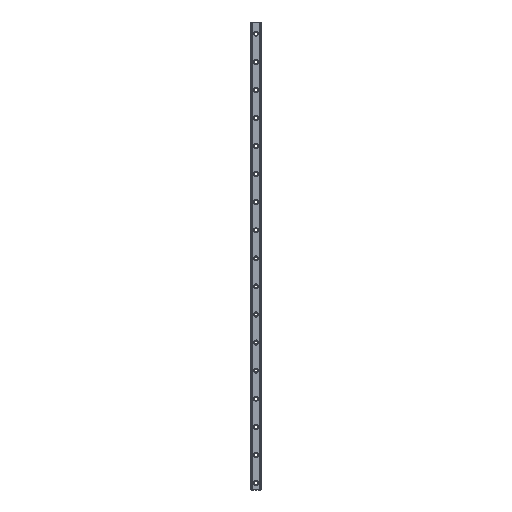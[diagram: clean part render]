
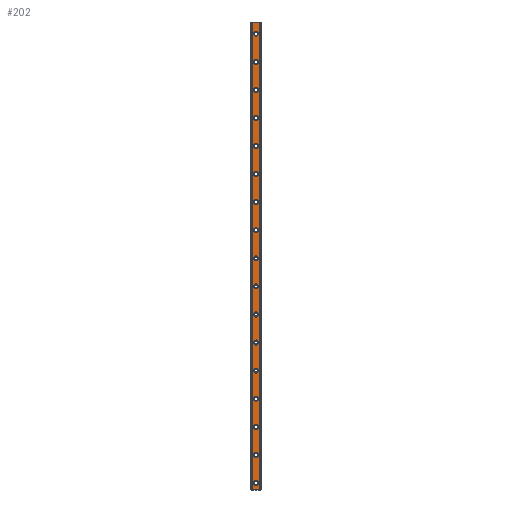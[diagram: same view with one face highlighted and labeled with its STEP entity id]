
A CAD part, top view. The second image highlights one B-rep face of the part: STEP entity #202.
In plain terms, the highlighted planar face has unit normal (0, 0, 1).
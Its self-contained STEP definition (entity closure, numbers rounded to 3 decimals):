
#202=ADVANCED_FACE('',(#1552,#1554,#1556,#1558,#1560,#1562,#1564,#1566,#1568,#1570,
#1572,#1574,#1576,#1578,#1580,#1582,#1584,#1586),#1588,.T.);
#1552=FACE_BOUND('',#1553,.T.);
#1553=EDGE_LOOP('',(#2754,#2755,#2756,#2757));
#1554=FACE_BOUND('',#1555,.T.);
#1555=EDGE_LOOP('',(#2758));
#1556=FACE_BOUND('',#1557,.T.);
#1557=EDGE_LOOP('',(#2759));
#1558=FACE_BOUND('',#1559,.T.);
#1559=EDGE_LOOP('',(#2760));
#1560=FACE_BOUND('',#1561,.T.);
#1561=EDGE_LOOP('',(#2761));
#1562=FACE_BOUND('',#1563,.T.);
#1563=EDGE_LOOP('',(#2762));
#1564=FACE_BOUND('',#1565,.T.);
#1565=EDGE_LOOP('',(#2763));
#1566=FACE_BOUND('',#1567,.T.);
#1567=EDGE_LOOP('',(#2764));
#1568=FACE_BOUND('',#1569,.T.);
#1569=EDGE_LOOP('',(#2765));
#1570=FACE_BOUND('',#1571,.T.);
#1571=EDGE_LOOP('',(#2766));
#1572=FACE_BOUND('',#1573,.T.);
#1573=EDGE_LOOP('',(#2767));
#1574=FACE_BOUND('',#1575,.T.);
#1575=EDGE_LOOP('',(#2768));
#1576=FACE_BOUND('',#1577,.T.);
#1577=EDGE_LOOP('',(#2769));
#1578=FACE_BOUND('',#1579,.T.);
#1579=EDGE_LOOP('',(#2770));
#1580=FACE_BOUND('',#1581,.T.);
#1581=EDGE_LOOP('',(#2771));
#1582=FACE_BOUND('',#1583,.T.);
#1583=EDGE_LOOP('',(#2772));
#1584=FACE_BOUND('',#1585,.T.);
#1585=EDGE_LOOP('',(#2773));
#1586=FACE_BOUND('',#1587,.T.);
#1587=EDGE_LOOP('',(#2774));
#1588=PLANE('',#1589);
#1589=AXIS2_PLACEMENT_3D('',#1590,#1591,#1592);
#1590=CARTESIAN_POINT('',(-8.3,0.,22.));
#1591=DIRECTION('',(0.,0.,1.));
#1592=DIRECTION('',(1.,0.,0.));
#2754=ORIENTED_EDGE('',*,*,#3574,.T.);
#2755=ORIENTED_EDGE('',*,*,#3575,.T.);
#2756=ORIENTED_EDGE('',*,*,#3576,.F.);
#2757=ORIENTED_EDGE('',*,*,#3577,.F.);
#2758=ORIENTED_EDGE('',*,*,#3578,.T.);
#2759=ORIENTED_EDGE('',*,*,#3579,.T.);
#2760=ORIENTED_EDGE('',*,*,#3580,.T.);
#2761=ORIENTED_EDGE('',*,*,#3581,.T.);
#2762=ORIENTED_EDGE('',*,*,#3582,.T.);
#2763=ORIENTED_EDGE('',*,*,#3583,.T.);
#2764=ORIENTED_EDGE('',*,*,#3584,.T.);
#2765=ORIENTED_EDGE('',*,*,#3585,.T.);
#2766=ORIENTED_EDGE('',*,*,#3586,.T.);
#2767=ORIENTED_EDGE('',*,*,#3587,.T.);
#2768=ORIENTED_EDGE('',*,*,#3588,.T.);
#2769=ORIENTED_EDGE('',*,*,#3589,.T.);
#2770=ORIENTED_EDGE('',*,*,#3590,.T.);
#2771=ORIENTED_EDGE('',*,*,#3591,.T.);
#2772=ORIENTED_EDGE('',*,*,#3592,.T.);
#2773=ORIENTED_EDGE('',*,*,#3593,.T.);
#2774=ORIENTED_EDGE('',*,*,#3594,.T.);
#3574=EDGE_CURVE('',#4144,#4145,#4146,.T.);
#3575=EDGE_CURVE('',#4145,#4147,#4148,.T.);
#3576=EDGE_CURVE('',#4149,#4147,#4150,.T.);
#3577=EDGE_CURVE('',#4144,#4149,#4151,.T.);
#3578=EDGE_CURVE('',#4152,#4152,#4153,.F.);
#3579=EDGE_CURVE('',#4154,#4154,#4155,.F.);
#3580=EDGE_CURVE('',#4156,#4156,#4157,.F.);
#3581=EDGE_CURVE('',#4158,#4158,#4159,.F.);
#3582=EDGE_CURVE('',#4160,#4160,#4161,.F.);
#3583=EDGE_CURVE('',#4162,#4162,#4163,.F.);
#3584=EDGE_CURVE('',#4164,#4164,#4165,.F.);
#3585=EDGE_CURVE('',#4166,#4166,#4167,.F.);
#3586=EDGE_CURVE('',#4168,#4168,#4169,.F.);
#3587=EDGE_CURVE('',#4170,#4170,#4171,.F.);
#3588=EDGE_CURVE('',#4172,#4172,#4173,.F.);
#3589=EDGE_CURVE('',#4174,#4174,#4175,.F.);
#3590=EDGE_CURVE('',#4176,#4176,#4177,.F.);
#3591=EDGE_CURVE('',#4178,#4178,#4179,.F.);
#3592=EDGE_CURVE('',#4180,#4180,#4181,.F.);
#3593=EDGE_CURVE('',#4182,#4182,#4183,.F.);
#3594=EDGE_CURVE('',#4184,#4184,#4185,.F.);
#4144=VERTEX_POINT('',#5330);
#4145=VERTEX_POINT('',#5331);
#4146=LINE('',#5332,#5333);
#4147=VERTEX_POINT('',#5335);
#4148=LINE('',#5336,#5337);
#4149=VERTEX_POINT('',#5339);
#4150=LINE('',#5340,#5341);
#4151=LINE('',#5343,#5344);
#4152=VERTEX_POINT('',#5346);
#4153=CIRCLE('',#5347,5.5);
#4154=VERTEX_POINT('',#5351);
#4155=CIRCLE('',#5352,5.5);
#4156=VERTEX_POINT('',#5356);
#4157=CIRCLE('',#5357,5.5);
#4158=VERTEX_POINT('',#5361);
#4159=CIRCLE('',#5362,5.5);
#4160=VERTEX_POINT('',#5366);
#4161=CIRCLE('',#5367,5.5);
#4162=VERTEX_POINT('',#5371);
#4163=CIRCLE('',#5372,5.5);
#4164=VERTEX_POINT('',#5376);
#4165=CIRCLE('',#5377,5.5);
#4166=VERTEX_POINT('',#5381);
#4167=CIRCLE('',#5382,5.5);
#4168=VERTEX_POINT('',#5386);
#4169=CIRCLE('',#5387,5.5);
#4170=VERTEX_POINT('',#5391);
#4171=CIRCLE('',#5392,5.5);
#4172=VERTEX_POINT('',#5396);
#4173=CIRCLE('',#5397,5.5);
#4174=VERTEX_POINT('',#5401);
#4175=CIRCLE('',#5402,5.5);
#4176=VERTEX_POINT('',#5406);
#4177=CIRCLE('',#5407,5.5);
#4178=VERTEX_POINT('',#5411);
#4179=CIRCLE('',#5412,5.5);
#4180=VERTEX_POINT('',#5416);
#4181=CIRCLE('',#5417,5.5);
#4182=VERTEX_POINT('',#5421);
#4183=CIRCLE('',#5422,5.5);
#4184=VERTEX_POINT('',#5426);
#4185=CIRCLE('',#5427,5.5);
#5330=CARTESIAN_POINT('',(-8.3,0.,22.));
#5331=CARTESIAN_POINT('',(8.3,0.,22.));
#5332=CARTESIAN_POINT('',(-8.3,0.,22.));
#5333=VECTOR('',#5334,1.);
#5334=DIRECTION('',(1.,0.,0.));
#5335=CARTESIAN_POINT('',(8.3,1000.,22.));
#5336=CARTESIAN_POINT('',(8.3,0.,22.));
#5337=VECTOR('',#5338,1.);
#5338=DIRECTION('',(0.,1.,0.));
#5339=CARTESIAN_POINT('',(-8.3,1000.,22.));
#5340=CARTESIAN_POINT('',(-8.3,1000.,22.));
#5341=VECTOR('',#5342,1.);
#5342=DIRECTION('',(1.,0.,0.));
#5343=CARTESIAN_POINT('',(-8.3,0.,22.));
#5344=VECTOR('',#5345,1.);
#5345=DIRECTION('',(0.,1.,0.));
#5346=CARTESIAN_POINT('',(0.,80.5,22.));
#5347=AXIS2_PLACEMENT_3D('',#5348,#5349,#5350);
#5348=CARTESIAN_POINT('',(0.,75.,22.));
#5349=DIRECTION('',(0.,0.,1.));
#5350=DIRECTION('',(0.,1.,0.));
#5351=CARTESIAN_POINT('',(0.,140.5,22.));
#5352=AXIS2_PLACEMENT_3D('',#5353,#5354,#5355);
#5353=CARTESIAN_POINT('',(0.,135.,22.));
#5354=DIRECTION('',(0.,0.,1.));
#5355=DIRECTION('',(0.,1.,0.));
#5356=CARTESIAN_POINT('',(0.,200.5,22.));
#5357=AXIS2_PLACEMENT_3D('',#5358,#5359,#5360);
#5358=CARTESIAN_POINT('',(0.,195.,22.));
#5359=DIRECTION('',(0.,0.,1.));
#5360=DIRECTION('',(0.,1.,0.));
#5361=CARTESIAN_POINT('',(0.,260.5,22.));
#5362=AXIS2_PLACEMENT_3D('',#5363,#5364,#5365);
#5363=CARTESIAN_POINT('',(0.,255.,22.));
#5364=DIRECTION('',(0.,0.,1.));
#5365=DIRECTION('',(0.,1.,0.));
#5366=CARTESIAN_POINT('',(0.,320.5,22.));
#5367=AXIS2_PLACEMENT_3D('',#5368,#5369,#5370);
#5368=CARTESIAN_POINT('',(0.,315.,22.));
#5369=DIRECTION('',(0.,0.,1.));
#5370=DIRECTION('',(0.,1.,0.));
#5371=CARTESIAN_POINT('',(0.,380.5,22.));
#5372=AXIS2_PLACEMENT_3D('',#5373,#5374,#5375);
#5373=CARTESIAN_POINT('',(0.,375.,22.));
#5374=DIRECTION('',(0.,0.,1.));
#5375=DIRECTION('',(0.,1.,0.));
#5376=CARTESIAN_POINT('',(0.,440.5,22.));
#5377=AXIS2_PLACEMENT_3D('',#5378,#5379,#5380);
#5378=CARTESIAN_POINT('',(0.,435.,22.));
#5379=DIRECTION('',(0.,0.,1.));
#5380=DIRECTION('',(0.,1.,0.));
#5381=CARTESIAN_POINT('',(0.,500.5,22.));
#5382=AXIS2_PLACEMENT_3D('',#5383,#5384,#5385);
#5383=CARTESIAN_POINT('',(0.,495.,22.));
#5384=DIRECTION('',(0.,0.,1.));
#5385=DIRECTION('',(0.,1.,0.));
#5386=CARTESIAN_POINT('',(0.,560.5,22.));
#5387=AXIS2_PLACEMENT_3D('',#5388,#5389,#5390);
#5388=CARTESIAN_POINT('',(0.,555.,22.));
#5389=DIRECTION('',(0.,0.,1.));
#5390=DIRECTION('',(0.,1.,0.));
#5391=CARTESIAN_POINT('',(0.,620.5,22.));
#5392=AXIS2_PLACEMENT_3D('',#5393,#5394,#5395);
#5393=CARTESIAN_POINT('',(0.,615.,22.));
#5394=DIRECTION('',(0.,0.,1.));
#5395=DIRECTION('',(0.,1.,0.));
#5396=CARTESIAN_POINT('',(0.,680.5,22.));
#5397=AXIS2_PLACEMENT_3D('',#5398,#5399,#5400);
#5398=CARTESIAN_POINT('',(0.,675.,22.));
#5399=DIRECTION('',(0.,0.,1.));
#5400=DIRECTION('',(0.,1.,0.));
#5401=CARTESIAN_POINT('',(0.,740.5,22.));
#5402=AXIS2_PLACEMENT_3D('',#5403,#5404,#5405);
#5403=CARTESIAN_POINT('',(0.,735.,22.));
#5404=DIRECTION('',(0.,0.,1.));
#5405=DIRECTION('',(0.,1.,0.));
#5406=CARTESIAN_POINT('',(0.,800.5,22.));
#5407=AXIS2_PLACEMENT_3D('',#5408,#5409,#5410);
#5408=CARTESIAN_POINT('',(0.,795.,22.));
#5409=DIRECTION('',(0.,0.,1.));
#5410=DIRECTION('',(0.,1.,0.));
#5411=CARTESIAN_POINT('',(0.,860.5,22.));
#5412=AXIS2_PLACEMENT_3D('',#5413,#5414,#5415);
#5413=CARTESIAN_POINT('',(0.,855.,22.));
#5414=DIRECTION('',(0.,0.,1.));
#5415=DIRECTION('',(0.,1.,0.));
#5416=CARTESIAN_POINT('',(0.,920.5,22.));
#5417=AXIS2_PLACEMENT_3D('',#5418,#5419,#5420);
#5418=CARTESIAN_POINT('',(0.,915.,22.));
#5419=DIRECTION('',(0.,0.,1.));
#5420=DIRECTION('',(0.,1.,0.));
#5421=CARTESIAN_POINT('',(0.,980.5,22.));
#5422=AXIS2_PLACEMENT_3D('',#5423,#5424,#5425);
#5423=CARTESIAN_POINT('',(0.,975.,22.));
#5424=DIRECTION('',(0.,0.,1.));
#5425=DIRECTION('',(0.,1.,0.));
#5426=CARTESIAN_POINT('',(0.,20.5,22.));
#5427=AXIS2_PLACEMENT_3D('',#5428,#5429,#5430);
#5428=CARTESIAN_POINT('',(0.,15.,22.));
#5429=DIRECTION('',(0.,0.,1.));
#5430=DIRECTION('',(0.,1.,0.));
